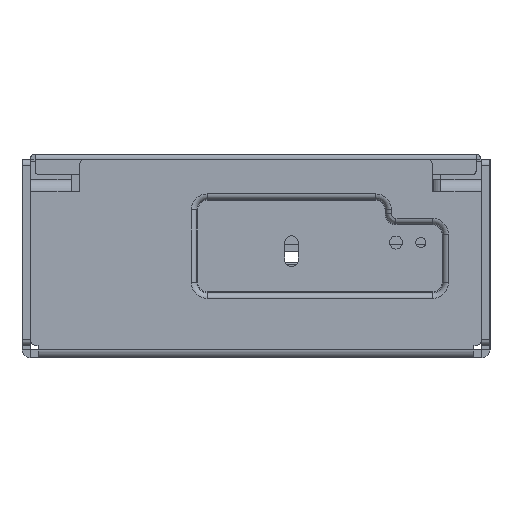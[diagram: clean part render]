
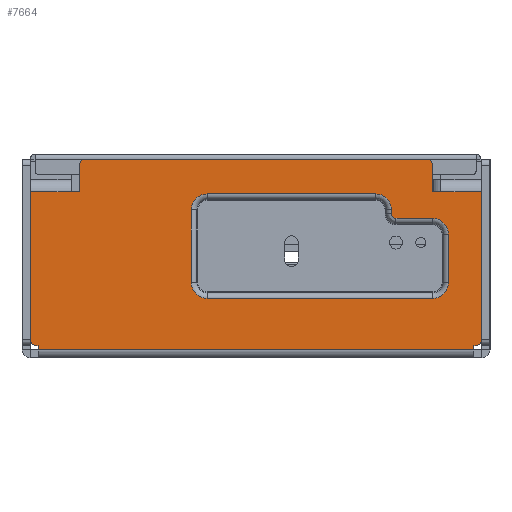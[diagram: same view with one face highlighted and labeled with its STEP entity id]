
A CAD part, left-side view. The second image highlights one B-rep face of the part: STEP entity #7664.
In plain terms, the highlighted planar face has unit normal (-1, 0, 0).
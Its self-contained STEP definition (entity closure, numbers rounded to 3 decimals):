
#616=DIRECTION('',(0.,0.,1.));
#617=VECTOR('',#616,1.);
#618=CARTESIAN_POINT('',(0.,-44.889,0.));
#619=LINE('',#618,#617);
#1255=DIRECTION('',(0.,-1.,0.));
#1256=VECTOR('',#1255,0.4);
#1257=CARTESIAN_POINT('',(0.,62.511,1.));
#1258=LINE('',#1257,#1256);
#1267=DIRECTION('',(0.,0.,-1.));
#1268=VECTOR('',#1267,36.3);
#1269=CARTESIAN_POINT('',(0.,64.011,38.8));
#1270=LINE('',#1269,#1268);
#1285=DIRECTION('',(0.,1.,0.));
#1286=VECTOR('',#1285,10.);
#1287=CARTESIAN_POINT('',(0.,54.011,38.8));
#1288=LINE('',#1287,#1286);
#1293=CARTESIAN_POINT('',(0.,50.511,45.3));
#1294=DIRECTION('',(1.,0.,0.));
#1295=DIRECTION('',(0.,1.,0.));
#1296=AXIS2_PLACEMENT_3D('',#1293,#1294,#1295);
#1298=CARTESIAN_POINT('',(0.,-33.289,45.3));
#1299=DIRECTION('',(1.,0.,0.));
#1300=DIRECTION('',(0.,0.,1.));
#1301=AXIS2_PLACEMENT_3D('',#1298,#1299,#1300);
#1303=DIRECTION('',(0.,0.,-1.));
#1304=VECTOR('',#1303,6.5);
#1305=CARTESIAN_POINT('',(0.,-34.789,45.3));
#1306=LINE('',#1305,#1304);
#1307=CARTESIAN_POINT('',(0.,-45.289,2.5));
#1308=DIRECTION('',(1.,0.,0.));
#1309=DIRECTION('',(0.,-1.,0.));
#1310=AXIS2_PLACEMENT_3D('',#1307,#1308,#1309);
#1312=DIRECTION('',(0.,0.,1.));
#1313=VECTOR('',#1312,1.);
#1314=CARTESIAN_POINT('',(0.,62.111,0.));
#1315=LINE('',#1314,#1313);
#1316=CARTESIAN_POINT('',(0.,62.511,2.5));
#1317=DIRECTION('',(1.,0.,0.));
#1318=DIRECTION('',(0.,0.,-1.));
#1319=AXIS2_PLACEMENT_3D('',#1316,#1317,#1318);
#1321=CARTESIAN_POINT('',(0.,-20.789,34.344));
#1322=DIRECTION('',(-1.,0.,0.));
#1323=DIRECTION('',(0.,-1.,0.));
#1324=AXIS2_PLACEMENT_3D('',#1321,#1322,#1323);
#1326=CARTESIAN_POINT('',(0.,20.611,34.344));
#1327=DIRECTION('',(-1.,0.,0.));
#1328=DIRECTION('',(0.,0.,1.));
#1329=AXIS2_PLACEMENT_3D('',#1326,#1327,#1328);
#1331=CARTESIAN_POINT('',(0.,20.611,16.5));
#1332=DIRECTION('',(-1.,0.,0.));
#1333=DIRECTION('',(0.,1.,0.));
#1334=AXIS2_PLACEMENT_3D('',#1331,#1332,#1333);
#1336=CARTESIAN_POINT('',(0.,-34.789,16.5));
#1337=DIRECTION('',(-1.,0.,0.));
#1338=DIRECTION('',(0.,0.,-1.));
#1339=AXIS2_PLACEMENT_3D('',#1336,#1337,#1338);
#1341=CARTESIAN_POINT('',(0.,-34.789,28.344));
#1342=DIRECTION('',(-1.,0.,0.));
#1343=DIRECTION('',(0.,-1.,0.));
#1344=AXIS2_PLACEMENT_3D('',#1341,#1342,#1343);
#1346=CARTESIAN_POINT('',(0.,-25.789,
33.344));
#1347=DIRECTION('',(1.,0.,0.));
#1348=DIRECTION('',(0.,0.,-1.));
#1349=AXIS2_PLACEMENT_3D('',#1346,#1347,#1348);
#1359=DIRECTION('',(0.,1.,0.));
#1360=VECTOR('',#1359,83.8);
#1361=CARTESIAN_POINT('',(0.,-33.289,46.8));
#1362=LINE('',#1361,#1360);
#1379=DIRECTION('',(0.,1.,0.));
#1380=VECTOR('',#1379,2.);
#1381=CARTESIAN_POINT('',(0.,-36.789,38.8));
#1382=LINE('',#1381,#1380);
#1397=DIRECTION('',(0.,1.,0.));
#1398=VECTOR('',#1397,10.);
#1399=CARTESIAN_POINT('',(0.,-46.789,38.8));
#1400=LINE('',#1399,#1398);
#1537=DIRECTION('',(0.,0.,1.));
#1538=VECTOR('',#1537,36.3);
#1539=CARTESIAN_POINT('',(0.,-46.789,2.5));
#1540=LINE('',#1539,#1538);
#1553=DIRECTION('',(0.,-1.,0.));
#1554=VECTOR('',#1553,0.4);
#1555=CARTESIAN_POINT('',(0.,-44.889,1.));
#1556=LINE('',#1555,#1554);
#1565=DIRECTION('',(0.,0.,-1.));
#1566=VECTOR('',#1565,6.5);
#1567=CARTESIAN_POINT('',(0.,52.011,45.3));
#1568=LINE('',#1567,#1566);
#1573=DIRECTION('',(0.,1.,0.));
#1574=VECTOR('',#1573,2.);
#1575=CARTESIAN_POINT('',(0.,52.011,38.8));
#1576=LINE('',#1575,#1574);
#1721=DIRECTION('',(0.,-1.,0.));
#1722=VECTOR('',#1721,107.);
#1723=CARTESIAN_POINT('',(0.,62.111,0.));
#1724=LINE('',#1723,#1722);
#1818=DIRECTION('',(0.,0.,-1.));
#1819=VECTOR('',#1818,1.);
#1820=CARTESIAN_POINT('',(0.,-24.689,34.344));
#1821=LINE('',#1820,#1819);
#1855=DIRECTION('',(0.,-1.,0.));
#1856=VECTOR('',#1855,9.);
#1857=CARTESIAN_POINT('',(0.,-25.789,
32.244));
#1858=LINE('',#1857,#1856);
#1892=DIRECTION('',(0.,0.,-1.));
#1893=VECTOR('',#1892,11.844);
#1894=CARTESIAN_POINT('',(0.,-38.689,28.344));
#1895=LINE('',#1894,#1893);
#1906=DIRECTION('',(0.,1.,0.));
#1907=VECTOR('',#1906,55.4);
#1908=CARTESIAN_POINT('',(0.,-34.789,12.6));
#1909=LINE('',#1908,#1907);
#1958=DIRECTION('',(0.,0.,1.));
#1959=VECTOR('',#1958,17.844);
#1960=CARTESIAN_POINT('',(0.,24.511,16.5));
#1961=LINE('',#1960,#1959);
#1995=DIRECTION('',(0.,-1.,0.));
#1996=VECTOR('',#1995,41.4);
#1997=CARTESIAN_POINT('',(0.,20.611,38.244));
#1998=LINE('',#1997,#1996);
#5317=CARTESIAN_POINT('',(0.,-44.889,0.));
#5318=VERTEX_POINT('',#5317);
#5319=CARTESIAN_POINT('',(0.,-44.889,1.));
#5320=VERTEX_POINT('',#5319);
#5571=CARTESIAN_POINT('',(0.,62.111,0.));
#5572=VERTEX_POINT('',#5571);
#5573=CARTESIAN_POINT('',(0.,62.111,1.));
#5574=VERTEX_POINT('',#5573);
#5575=CARTESIAN_POINT('',(0.,62.511,1.));
#5576=VERTEX_POINT('',#5575);
#5577=CARTESIAN_POINT('',(0.,64.011,2.5));
#5578=VERTEX_POINT('',#5577);
#5579=CARTESIAN_POINT('',(0.,64.011,38.8));
#5580=VERTEX_POINT('',#5579);
#5585=CARTESIAN_POINT('',(0.,54.011,38.8));
#5586=VERTEX_POINT('',#5585);
#5589=CARTESIAN_POINT('',(0.,52.011,45.3));
#5590=CARTESIAN_POINT('',(0.,50.511,46.8));
#5591=VERTEX_POINT('',#5589);
#5592=VERTEX_POINT('',#5590);
#5593=CARTESIAN_POINT('',(0.,-33.289,46.8));
#5594=VERTEX_POINT('',#5593);
#5595=CARTESIAN_POINT('',(0.,-34.789,45.3));
#5596=VERTEX_POINT('',#5595);
#5597=CARTESIAN_POINT('',(0.,-34.789,38.8));
#5598=VERTEX_POINT('',#5597);
#5599=CARTESIAN_POINT('',(0.,-36.789,38.8));
#5600=VERTEX_POINT('',#5599);
#5601=CARTESIAN_POINT('',(0.,-46.789,38.8));
#5602=VERTEX_POINT('',#5601);
#5603=CARTESIAN_POINT('',(0.,-46.789,2.5));
#5604=VERTEX_POINT('',#5603);
#5605=CARTESIAN_POINT('',(0.,-45.289,1.));
#5606=VERTEX_POINT('',#5605);
#5607=CARTESIAN_POINT('',(0.,52.011,38.8));
#5608=VERTEX_POINT('',#5607);
#5609=CARTESIAN_POINT('',(0.,-24.689,34.344));
#5610=CARTESIAN_POINT('',(0.,-20.789,38.244));
#5611=VERTEX_POINT('',#5609);
#5612=VERTEX_POINT('',#5610);
#5613=CARTESIAN_POINT('',(0.,20.611,38.244));
#5614=VERTEX_POINT('',#5613);
#5615=CARTESIAN_POINT('',(0.,24.511,34.344));
#5616=VERTEX_POINT('',#5615);
#5617=CARTESIAN_POINT('',(0.,24.511,16.5));
#5618=VERTEX_POINT('',#5617);
#5619=CARTESIAN_POINT('',(0.,20.611,12.6));
#5620=VERTEX_POINT('',#5619);
#5621=CARTESIAN_POINT('',(0.,-34.789,12.6));
#5622=VERTEX_POINT('',#5621);
#5623=CARTESIAN_POINT('',(0.,-38.689,16.5));
#5624=VERTEX_POINT('',#5623);
#5625=CARTESIAN_POINT('',(0.,-38.689,28.344));
#5626=VERTEX_POINT('',#5625);
#5627=CARTESIAN_POINT('',(0.,-34.789,32.244));
#5628=VERTEX_POINT('',#5627);
#5629=CARTESIAN_POINT('',(0.,-25.789,
32.244));
#5630=VERTEX_POINT('',#5629);
#5631=CARTESIAN_POINT('',(0.,-24.689,
33.344));
#5632=VERTEX_POINT('',#5631);
#7601=CARTESIAN_POINT('',(0.,-46.889,-2.));
#7602=DIRECTION('',(-1.,0.,0.));
#7603=DIRECTION('',(0.,-1.,0.));
#7604=AXIS2_PLACEMENT_3D('',#7601,#7602,#7603);
#7605=PLANE('',#7604);
#7607=ORIENTED_EDGE('',*,*,#7606,.T.);
#7609=ORIENTED_EDGE('',*,*,#7608,.F.);
#7611=ORIENTED_EDGE('',*,*,#7610,.T.);
#7613=ORIENTED_EDGE('',*,*,#7612,.T.);
#7615=ORIENTED_EDGE('',*,*,#7614,.F.);
#7617=ORIENTED_EDGE('',*,*,#7616,.F.);
#7619=ORIENTED_EDGE('',*,*,#7618,.F.);
#7621=ORIENTED_EDGE('',*,*,#7620,.T.);
#7623=ORIENTED_EDGE('',*,*,#7622,.F.);
#7624=ORIENTED_EDGE('',*,*,#6857,.F.);
#7626=ORIENTED_EDGE('',*,*,#7625,.F.);
#7627=ORIENTED_EDGE('',*,*,#7523,.T.);
#7628=ORIENTED_EDGE('',*,*,#7536,.F.);
#7629=ORIENTED_EDGE('',*,*,#7551,.T.);
#7630=ORIENTED_EDGE('',*,*,#7564,.F.);
#7631=ORIENTED_EDGE('',*,*,#7591,.F.);
#7633=ORIENTED_EDGE('',*,*,#7632,.F.);
#7635=ORIENTED_EDGE('',*,*,#7634,.F.);
#7636=EDGE_LOOP('',(#7607,#7609,#7611,#7613,#7615,#7617,#7619,#7621,#7623,#7624,
#7626,#7627,#7628,#7629,#7630,#7631,#7633,#7635));
#7637=FACE_OUTER_BOUND('',#7636,.F.);
#7639=ORIENTED_EDGE('',*,*,#7638,.T.);
#7641=ORIENTED_EDGE('',*,*,#7640,.F.);
#7643=ORIENTED_EDGE('',*,*,#7642,.T.);
#7645=ORIENTED_EDGE('',*,*,#7644,.F.);
#7647=ORIENTED_EDGE('',*,*,#7646,.T.);
#7649=ORIENTED_EDGE('',*,*,#7648,.F.);
#7651=ORIENTED_EDGE('',*,*,#7650,.T.);
#7653=ORIENTED_EDGE('',*,*,#7652,.F.);
#7655=ORIENTED_EDGE('',*,*,#7654,.T.);
#7657=ORIENTED_EDGE('',*,*,#7656,.F.);
#7659=ORIENTED_EDGE('',*,*,#7658,.T.);
#7661=ORIENTED_EDGE('',*,*,#7660,.F.);
#7662=EDGE_LOOP('',(#7639,#7641,#7643,#7645,#7647,#7649,#7651,#7653,#7655,#7657,
#7659,#7661));
#7663=FACE_BOUND('',#7662,.F.);
#1297=CIRCLE('',#1296,1.5);
#1302=CIRCLE('',#1301,1.5);
#1311=CIRCLE('',#1310,1.5);
#1320=CIRCLE('',#1319,1.5);
#1325=CIRCLE('',#1324,3.9);
#1330=CIRCLE('',#1329,3.9);
#1335=CIRCLE('',#1334,3.9);
#1340=CIRCLE('',#1339,3.9);
#1345=CIRCLE('',#1344,3.9);
#1350=CIRCLE('',#1349,1.1);
#6857=EDGE_CURVE('',#5318,#5320,#619,.T.);
#7523=EDGE_CURVE('',#5572,#5574,#1315,.T.);
#7536=EDGE_CURVE('',#5576,#5574,#1258,.T.);
#7551=EDGE_CURVE('',#5576,#5578,#1320,.T.);
#7564=EDGE_CURVE('',#5580,#5578,#1270,.T.);
#7591=EDGE_CURVE('',#5586,#5580,#1288,.T.);
#7606=EDGE_CURVE('',#5591,#5592,#1297,.T.);
#7608=EDGE_CURVE('',#5594,#5592,#1362,.T.);
#7610=EDGE_CURVE('',#5594,#5596,#1302,.T.);
#7612=EDGE_CURVE('',#5596,#5598,#1306,.T.);
#7614=EDGE_CURVE('',#5600,#5598,#1382,.T.);
#7616=EDGE_CURVE('',#5602,#5600,#1400,.T.);
#7618=EDGE_CURVE('',#5604,#5602,#1540,.T.);
#7620=EDGE_CURVE('',#5604,#5606,#1311,.T.);
#7622=EDGE_CURVE('',#5320,#5606,#1556,.T.);
#7625=EDGE_CURVE('',#5572,#5318,#1724,.T.);
#7632=EDGE_CURVE('',#5608,#5586,#1576,.T.);
#7634=EDGE_CURVE('',#5591,#5608,#1568,.T.);
#7638=EDGE_CURVE('',#5611,#5612,#1325,.T.);
#7640=EDGE_CURVE('',#5614,#5612,#1998,.T.);
#7642=EDGE_CURVE('',#5614,#5616,#1330,.T.);
#7644=EDGE_CURVE('',#5618,#5616,#1961,.T.);
#7646=EDGE_CURVE('',#5618,#5620,#1335,.T.);
#7648=EDGE_CURVE('',#5622,#5620,#1909,.T.);
#7650=EDGE_CURVE('',#5622,#5624,#1340,.T.);
#7652=EDGE_CURVE('',#5626,#5624,#1895,.T.);
#7654=EDGE_CURVE('',#5626,#5628,#1345,.T.);
#7656=EDGE_CURVE('',#5630,#5628,#1858,.T.);
#7658=EDGE_CURVE('',#5630,#5632,#1350,.T.);
#7660=EDGE_CURVE('',#5611,#5632,#1821,.T.);
#7664=ADVANCED_FACE('',(#7637,#7663),#7605,.T.);
